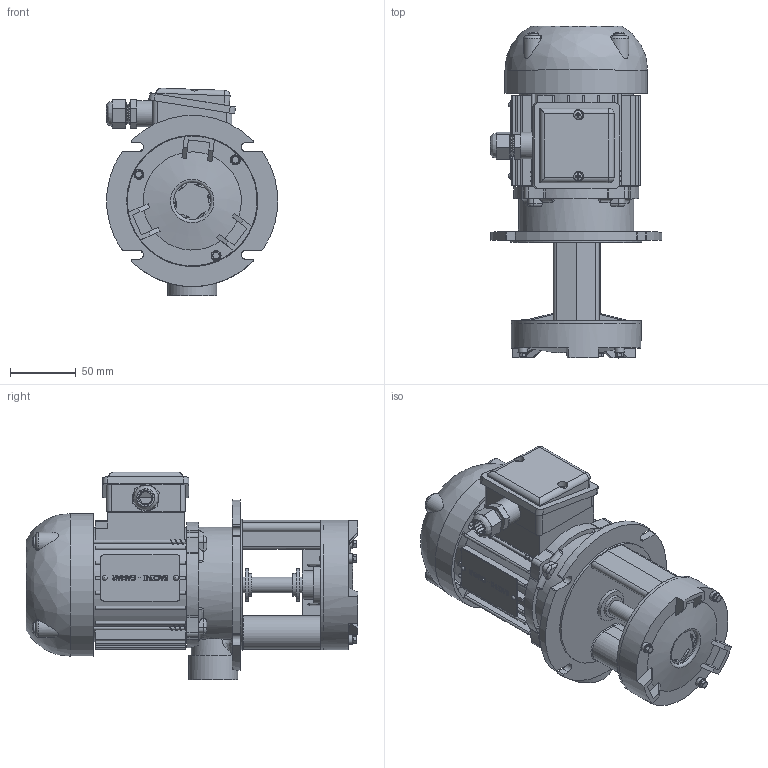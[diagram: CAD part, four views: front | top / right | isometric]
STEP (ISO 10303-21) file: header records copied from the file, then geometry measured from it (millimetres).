
FILE_DESCRIPTION(/* description */ (''),/* implementation_level */ '2;1');
FILE_NAME(/* name */ 'P:\3D PER CLIENTI\POMPE\SPV\YT56SVA++090.stp',/* time_stamp */ '2019-04-09T09:12:25+02:00',/* author */ ('vgiaretta'),/* organization */ (''),/* preprocessor_version */ 'ST-DEVELOPER v17.2',/* originating_system */ 'Autodesk Inventor 2019',/* authorisation */ '');
FILE_SCHEMA (('AUTOMOTIVE_DESIGN { 1 0 10303 214 3 1 1 }'));
Products named in the file (1): YT56SVA++090_iLogic_Shrinkwrap
Bounding box: 129.88 x 251.74 x 157.58 mm (x, y, z)
Volume: 893703.4 mm3; surface area: 313752.6 mm2
Topology: 14 solids, 18 shells, 1789 faces, 4949 edges, 3196 vertices
Faces by surface type: plane 1006, cylinder 432, bspline 172, cone 99, torus 56, sphere 24
Full cylindrical faces by diameter (mm): 1.1 x2, 2.53 x2, 2.56 x51, 3 x2, 3.3 x6, 3.5 x6, 3.8 x4, 4.5 x3, 4.58 x4, 5 x3, 6.5 x4, 7 x4, 7.1 x3, 7.5 x2, 7.6 x3, 7.9 x4, 8.5 x1, 8.6 x4, 10 x1, 11.3 x1, 11.5 x2, 11.95 x8, 12 x2, 12.005 x2, 13.154 x1, 13.376 x1, 13.8 x1, 14 x1, 14.4 x1, 15.77 x1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
Entity records: 71860 total; most frequent: CARTESIAN_POINT 24811, ORIENTED_EDGE 9896, DIRECTION 8844, EDGE_CURVE 4948, VERTEX_POINT 3207, AXIS2_PLACEMENT_3D 3120, LINE 2604, VECTOR 2604
